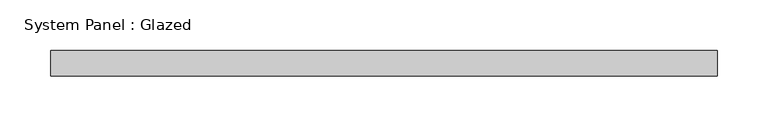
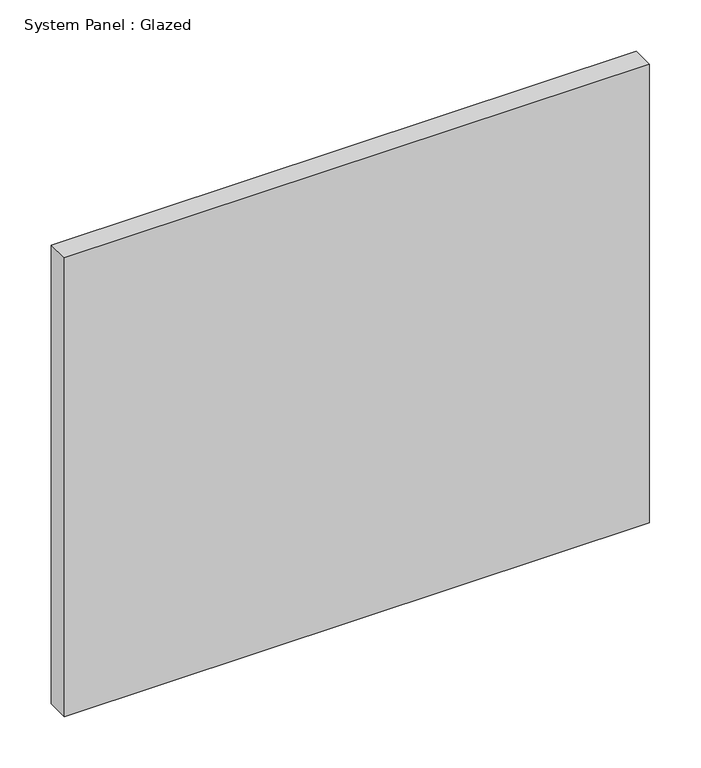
"""IFC4 building model written with IfcOpenShell, lengths in millimetres: plate geometry, System Panel : Glazed."""

from ifc_helpers import new_model, si_unit, origin, origin_with_axes, place, context, project, spatial, polyline, outline, extrude, source, transform, mapped, element, save


def system_panel_glazed_b5016a42(model_context):
    return source(origin(), model_context, "Body", "SweptSolid", [
        extrude(outline(polyline([(329.45, -44.45), (-329.45, -44.45), (-329.45, -19.05), (329.45, -19.05), (329.45, -44.45)])), origin_with_axes(), (0.0, 0.0, 1.0), 546.1),
    ])


if __name__ == "__main__":
    model = new_model("IFC4")
    model_context = context("Model", 3, world=origin())
    ifc_project = project(units=[si_unit("LENGTHUNIT", "METRE", prefix="MILLI")], contexts=[model_context])
    site = spatial("IfcSite", under=ifc_project)
    building = spatial("IfcBuilding", under=site)
    placement = place(None, origin())
    system_panel_glazed_shape = system_panel_glazed_b5016a42(model_context)
    element("IfcPlate", 1, ObjectType="System Panel : Glazed", at=placement, inside=building, context=model_context, shape_type="MappedRepresentation", body=[
        mapped(system_panel_glazed_shape, transform((0.0, 0.0, 0.0), x_axis=(1.0, 0.0, 0.0), y_axis=(0.0, 1.0, 0.0), z_axis=(0.0, 0.0, 1.0))),
    ])
    save(model, "model.ifc")
